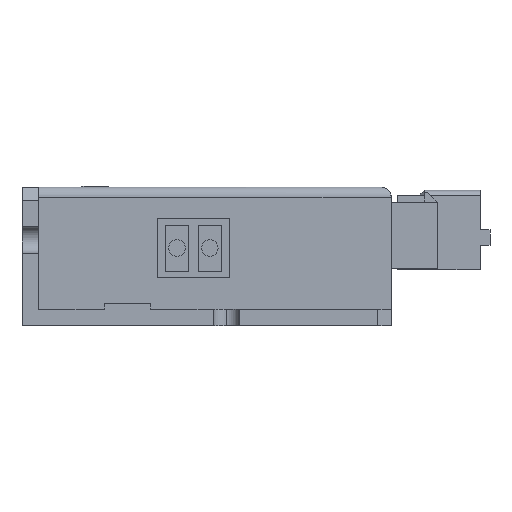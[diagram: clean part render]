
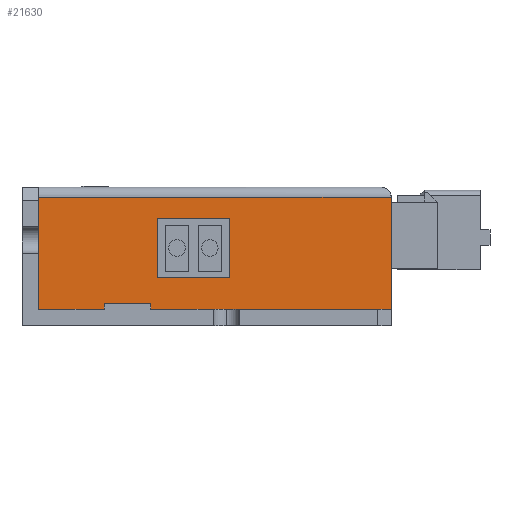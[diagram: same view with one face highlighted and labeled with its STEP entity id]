
A CAD part, left-side view. The second image highlights one B-rep face of the part: STEP entity #21630.
In plain terms, the highlighted planar face has unit normal (-1, 0, 0).
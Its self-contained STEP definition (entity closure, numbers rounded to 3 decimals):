
#454 = ORIENTED_EDGE ( 'NONE', *, *, #18613, .F. ) ;
#538 = LINE ( 'NONE', #14948, #13430 ) ;
#663 = DIRECTION ( 'NONE',  ( 0., 0., 1. ) ) ;
#816 = CARTESIAN_POINT ( 'NONE',  ( -39.5, -28.1, 2.5 ) ) ;
#972 = VERTEX_POINT ( 'NONE', #13903 ) ;
#1007 = CARTESIAN_POINT ( 'NONE',  ( -39.5, -28.1, 2.5 ) ) ;
#1366 = ORIENTED_EDGE ( 'NONE', *, *, #5741, .T. ) ;
#1495 = CARTESIAN_POINT ( 'NONE',  ( -39.5, 8.5, 3.3 ) ) ;
#1692 = VECTOR ( 'NONE', #15154, 1000. ) ;
#1738 = CARTESIAN_POINT ( 'NONE',  ( -39.5, -28., 21. ) ) ;
#1740 = EDGE_CURVE ( 'NONE', #10451, #16165, #20570, .T. ) ;
#1784 = ORIENTED_EDGE ( 'NONE', *, *, #13647, .F. ) ;
#2088 = CARTESIAN_POINT ( 'NONE',  ( -39.5, -28.1, 7.25 ) ) ;
#2343 = EDGE_CURVE ( 'NONE', #8692, #14108, #2616, .T. ) ;
#2616 = LINE ( 'NONE', #816, #8805 ) ;
#2985 = VECTOR ( 'NONE', #19243, 1000. ) ;
#3640 = DIRECTION ( 'NONE',  ( 0., 0., -1. ) ) ;
#3726 = VECTOR ( 'NONE', #13968, 1000. ) ;
#3777 = CARTESIAN_POINT ( 'NONE',  ( -39.5, 8.5, 2.5 ) ) ;
#3892 = CARTESIAN_POINT ( 'NONE',  ( -39.5, -28.1, 19.5 ) ) ;
#4352 = CARTESIAN_POINT ( 'NONE',  ( -39.5, 7.5, 7.25 ) ) ;
#4874 = EDGE_CURVE ( 'NONE', #18421, #12507, #6519, .T. ) ;
#5741 = EDGE_CURVE ( 'NONE', #11233, #14108, #15800, .T. ) ;
#6390 = ORIENTED_EDGE ( 'NONE', *, *, #16751, .F. ) ;
#6519 = LINE ( 'NONE', #1007, #19920 ) ;
#6587 = ORIENTED_EDGE ( 'NONE', *, *, #19912, .F. ) ;
#7182 = CARTESIAN_POINT ( 'NONE',  ( -39.5, 25.5, 19.5 ) ) ;
#7839 = VECTOR ( 'NONE', #16730, 1000. ) ;
#7850 = CARTESIAN_POINT ( 'NONE',  ( -39.5, 15.5, 3.3 ) ) ;
#8616 = ORIENTED_EDGE ( 'NONE', *, *, #2343, .F. ) ;
#8692 = VERTEX_POINT ( 'NONE', #22565 ) ;
#8805 = VECTOR ( 'NONE', #15347, 1000. ) ;
#8823 = DIRECTION ( 'NONE',  ( 0., 0., -1. ) ) ;
#9053 = DIRECTION ( 'NONE',  ( 1., 0., 0. ) ) ;
#9178 = LINE ( 'NONE', #3892, #18323 ) ;
#10257 = DIRECTION ( 'NONE',  ( 0., 1., 0. ) ) ;
#10451 = VERTEX_POINT ( 'NONE', #4352 ) ;
#10855 = CARTESIAN_POINT ( 'NONE',  ( -39.5, -28.1, -54.055 ) ) ;
#10974 = FACE_OUTER_BOUND ( 'NONE', #21185, .T. ) ;
#11103 = LINE ( 'NONE', #1738, #7839 ) ;
#11233 = VERTEX_POINT ( 'NONE', #16518 ) ;
#11347 = CARTESIAN_POINT ( 'NONE',  ( -39.5, -3.5, 16.25 ) ) ;
#11795 = LINE ( 'NONE', #18751, #1692 ) ;
#11860 = VERTEX_POINT ( 'NONE', #15433 ) ;
#12507 = VERTEX_POINT ( 'NONE', #16144 ) ;
#13038 = CARTESIAN_POINT ( 'NONE',  ( -39.5, -3.5, 7.25 ) ) ;
#13430 = VECTOR ( 'NONE', #663, 1000. ) ;
#13647 = EDGE_CURVE ( 'NONE', #11233, #15562, #11795, .T. ) ;
#13846 = LINE ( 'NONE', #15773, #2985 ) ;
#13903 = CARTESIAN_POINT ( 'NONE',  ( -39.5, 7.5, 16.25 ) ) ;
#13968 = DIRECTION ( 'NONE',  ( 0., 0., -1. ) ) ;
#14108 = VERTEX_POINT ( 'NONE', #3777 ) ;
#14145 = VECTOR ( 'NONE', #18769, 1000. ) ;
#14172 = CARTESIAN_POINT ( 'NONE',  ( -39.5, 25.5, -54.055 ) ) ;
#14208 = LINE ( 'NONE', #19719, #3726 ) ;
#14302 = ORIENTED_EDGE ( 'NONE', *, *, #4874, .F. ) ;
#14632 = DIRECTION ( 'NONE',  ( 0., 0., 1. ) ) ;
#14680 = FACE_BOUND ( 'NONE', #18130, .T. ) ;
#14948 = CARTESIAN_POINT ( 'NONE',  ( -39.5, -3.5, -54.055 ) ) ;
#15061 = DIRECTION ( 'NONE',  ( 0., -1., 0. ) ) ;
#15154 = DIRECTION ( 'NONE',  ( 0., 1., 0. ) ) ;
#15303 = AXIS2_PLACEMENT_3D ( 'NONE', #10855, #9053, #3640 ) ;
#15347 = DIRECTION ( 'NONE',  ( 0., 1., 0. ) ) ;
#15433 = CARTESIAN_POINT ( 'NONE',  ( -39.5, -28., 19.5 ) ) ;
#15562 = VERTEX_POINT ( 'NONE', #7850 ) ;
#15616 = VERTEX_POINT ( 'NONE', #7182 ) ;
#15773 = CARTESIAN_POINT ( 'NONE',  ( -39.5, -28.1, 16.25 ) ) ;
#15800 = LINE ( 'NONE', #1495, #21110 ) ;
#15858 = DIRECTION ( 'NONE',  ( 0., 0., 1. ) ) ;
#16144 = CARTESIAN_POINT ( 'NONE',  ( -39.5, 25.5, 2.5 ) ) ;
#16165 = VERTEX_POINT ( 'NONE', #13038 ) ;
#16518 = CARTESIAN_POINT ( 'NONE',  ( -39.5, 8.5, 3.3 ) ) ;
#16668 = LINE ( 'NONE', #18112, #22033 ) ;
#16730 = DIRECTION ( 'NONE',  ( 0., 0., 1. ) ) ;
#16751 = EDGE_CURVE ( 'NONE', #12507, #15616, #21498, .T. ) ;
#17402 = EDGE_CURVE ( 'NONE', #972, #10451, #14208, .T. ) ;
#18005 = ORIENTED_EDGE ( 'NONE', *, *, #1740, .F. ) ;
#18112 = CARTESIAN_POINT ( 'NONE',  ( -39.5, 15.5, 3.3 ) ) ;
#18130 = EDGE_LOOP ( 'NONE', ( #18005, #21941, #6587, #454 ) ) ;
#18323 = VECTOR ( 'NONE', #15061, 1000. ) ;
#18421 = VERTEX_POINT ( 'NONE', #21900 ) ;
#18613 = EDGE_CURVE ( 'NONE', #16165, #22440, #538, .T. ) ;
#18751 = CARTESIAN_POINT ( 'NONE',  ( -39.5, -28.1, 3.3 ) ) ;
#18769 = DIRECTION ( 'NONE',  ( 0., -1., 0. ) ) ;
#19243 = DIRECTION ( 'NONE',  ( 0., 1., 0. ) ) ;
#19303 = EDGE_CURVE ( 'NONE', #15616, #11860, #9178, .T. ) ;
#19719 = CARTESIAN_POINT ( 'NONE',  ( -39.5, 7.5, -54.055 ) ) ;
#19912 = EDGE_CURVE ( 'NONE', #22440, #972, #13846, .T. ) ;
#19920 = VECTOR ( 'NONE', #10257, 1000. ) ;
#20570 = LINE ( 'NONE', #2088, #14145 ) ;
#20579 = VECTOR ( 'NONE', #15858, 1000. ) ;
#21110 = VECTOR ( 'NONE', #8823, 1000. ) ;
#21185 = EDGE_LOOP ( 'NONE', ( #21770, #6390, #14302, #22769, #1784, #1366, #8616, #23484 ) ) ;
#21498 = LINE ( 'NONE', #14172, #20579 ) ;
#21630 = ADVANCED_FACE ( 'NONE', ( #10974, #14680 ), #22002, .F. ) ;
#21770 = ORIENTED_EDGE ( 'NONE', *, *, #19303, .F. ) ;
#21900 = CARTESIAN_POINT ( 'NONE',  ( -39.5, 15.5, 2.5 ) ) ;
#21941 = ORIENTED_EDGE ( 'NONE', *, *, #17402, .F. ) ;
#22002 = PLANE ( 'NONE',  #15303 ) ;
#22033 = VECTOR ( 'NONE', #14632, 1000. ) ;
#22438 = EDGE_CURVE ( 'NONE', #8692, #11860, #11103, .T. ) ;
#22440 = VERTEX_POINT ( 'NONE', #11347 ) ;
#22565 = CARTESIAN_POINT ( 'NONE',  ( -39.5, -28., 2.5 ) ) ;
#22769 = ORIENTED_EDGE ( 'NONE', *, *, #23093, .T. ) ;
#23093 = EDGE_CURVE ( 'NONE', #18421, #15562, #16668, .T. ) ;
#23484 = ORIENTED_EDGE ( 'NONE', *, *, #22438, .T. ) ;
